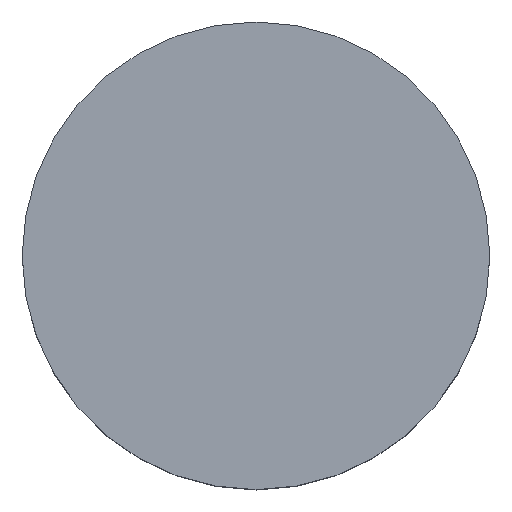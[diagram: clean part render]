
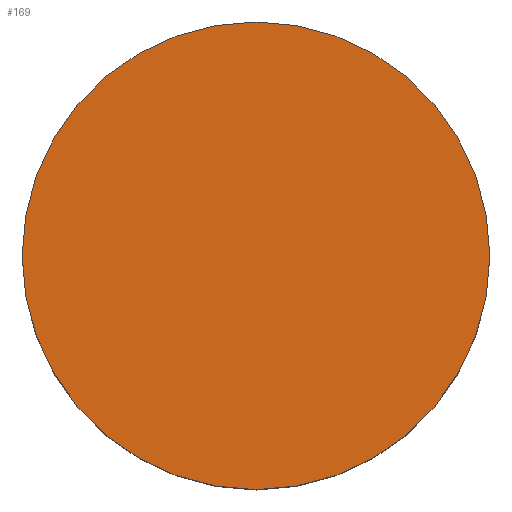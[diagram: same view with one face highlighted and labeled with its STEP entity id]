
A CAD part, top view. The second image highlights one B-rep face of the part: STEP entity #169.
In plain terms, the highlighted planar face has unit normal (0, 0, 1).
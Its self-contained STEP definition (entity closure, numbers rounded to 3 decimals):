
#169=ADVANCED_FACE('',(#209),#200,.T.);
#200=PLANE('',#534);
#209=FACE_OUTER_BOUND('',#233,.T.);
#233=EDGE_LOOP('',(#271,#272));
#271=ORIENTED_EDGE('',*,*,#429,.F.);
#272=ORIENTED_EDGE('',*,*,#430,.F.);
#391=VERTEX_POINT('',#773);
#392=VERTEX_POINT('',#774);
#429=EDGE_CURVE('',#391,#392,#489,.T.);
#430=EDGE_CURVE('',#392,#391,#490,.T.);
#489=CIRCLE('',#532,5.5);
#490=CIRCLE('',#533,5.5);
#532=AXIS2_PLACEMENT_3D('',#772,#607,#608);
#533=AXIS2_PLACEMENT_3D('',#775,#609,#610);
#534=AXIS2_PLACEMENT_3D('',#776,#611,#612);
#607=DIRECTION('',(0.,0.,-1.));
#608=DIRECTION('',(0.,1.,0.));
#609=DIRECTION('',(0.,0.,-1.));
#610=DIRECTION('',(0.,-1.,0.));
#611=DIRECTION('',(0.,0.,1.));
#612=DIRECTION('',(0.,-1.,0.));
#772=CARTESIAN_POINT('',(0.,0.,5.));
#773=CARTESIAN_POINT('',(5.5,0.,5.));
#774=CARTESIAN_POINT('',(-5.5,0.,5.));
#775=CARTESIAN_POINT('',(0.,0.,5.));
#776=CARTESIAN_POINT('',(0.,0.,5.));
